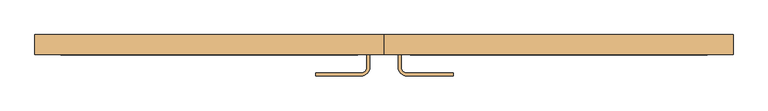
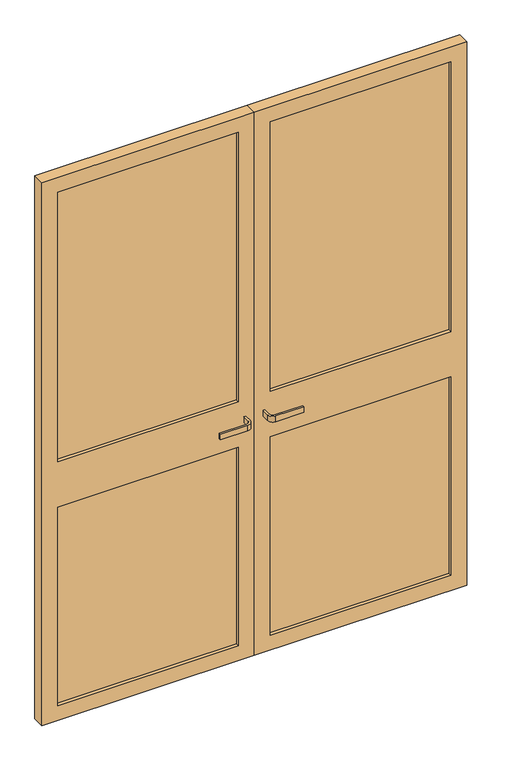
"""IFC4 building model written with IfcOpenShell, lengths in millimetres: door geometry, PORTON_REJA : PORTON_REJA."""

from ifc_helpers import new_model, si_unit, point, frame, frame_2d, origin, place, context, project, spatial, polyline, circle_curve, trimmed, segment, composite_curve, outline, extrude, source, transform, mapped, element, save


def door_d07a92cc(model_context):
    return source(origin(), model_context, "Body", "SweptSolid", [
        extrude(outline(polyline([(2100.0, 0.8168501), (0.0, 0.8168501), (0.0, 776.4858404), (2100.0, 776.4858404), (2100.0, 0.8168501)]), holes=[polyline([(2042.85, 57.9668501), (2042.85, 719.3358404), (1000.0, 719.3358404), (1000.0, 57.9668501), (2042.85, 57.9668501)]), polyline([(825.0, 719.3358404), (57.15, 719.3358404), (57.15, 57.9668501), (825.0, 57.9668501), (825.0, 719.3358404)])]), frame((0.0, -60.0, 0.0), z_axis=(0.0, 1.0, 0.0), x_axis=(0.0, 0.0, 1.0)), (0.0, 0.0, 1.0), 44.45),
        extrude(outline(polyline([(2100.0, -0.7706499), (2100.0, -776.4858404), (0.0, -776.4858404), (0.0, -0.7706499), (2100.0, -0.7706499)]), holes=[polyline([(2042.85, -719.3358404), (2042.85, -57.9206499), (1000.0, -57.9206499), (1000.0, -719.3358404), (2042.85, -719.3358404)]), polyline([(825.0, -57.9206499), (57.15, -57.9206499), (57.15, -719.3358404), (825.0, -719.3358404), (825.0, -57.9206499)])]), frame((0.0, -60.0, 0.0), z_axis=(0.0, 1.0, 0.0), x_axis=(0.0, 0.0, 1.0)), (0.0, 0.0, 1.0), 44.45),
        extrude(outline(polyline([(719.3358404, -28.25), (719.3358404, -47.3), (57.9668501, -47.3), (57.9668501, -28.25), (719.3358404, -28.25)])), frame((0.0, 0.0, 1000.0), z_axis=(0.0, 0.0, 1.0), x_axis=(1.0, 0.0, 0.0)), (0.0, 0.0, 1.0), 1042.85),
        extrude(outline(polyline([(719.3358404, -28.25), (719.3358404, -47.3), (57.9668501, -47.3), (57.9668501, -28.25), (719.3358404, -28.25)])), frame((0.0, 0.0, 57.15), z_axis=(0.0, 0.0, 1.0), x_axis=(1.0, 0.0, 0.0)), (0.0, 0.0, 1.0), 767.85),
        extrude(outline(polyline([(-57.9206499, -28.25), (-57.9206499, -47.3), (-719.3358404, -47.3), (-719.3358404, -28.25), (-57.9206499, -28.25)])), frame((0.0, 0.0, 1000.0), z_axis=(0.0, 0.0, 1.0), x_axis=(1.0, 0.0, 0.0)), (0.0, 0.0, 1.0), 1042.85),
        extrude(outline(polyline([(-57.9206499, -28.25), (-57.9206499, -47.3), (-719.3358404, -47.3), (-719.3358404, -28.25), (-57.9206499, -28.25)])), frame((0.0, 0.0, 57.15), z_axis=(0.0, 0.0, 1.0), x_axis=(1.0, 0.0, 0.0)), (0.0, 0.0, 1.0), 767.85),
        extrude(outline(composite_curve([segment(trimmed(circle_curve(frame_2d((-50.7768999, -88.25)), 19.05), [point((-31.7268999, -88.25))], [point((-50.7768999, -107.3))], False, "CARTESIAN"), True, "CONTINUOUS"), segment(polyline([(-50.7768999, -107.3), (-151.694019, -107.3), (-151.694019, -100.95), (-50.7768999, -100.95)]), True, "CONTINUOUS"), segment(trimmed(circle_curve(frame_2d((-50.7768999, -88.25)), 12.7), [point((-50.7768999, -100.95))], [point((-38.0768999, -88.25))], True, "CARTESIAN"), True, "CONTINUOUS"), segment(polyline([(-38.0768999, -88.25), (-38.0768999, -60.0), (-31.7268999, -60.0), (-31.7268999, -88.25)]), True, "CONTINUOUS")], self_intersect=False)), frame((0.0, 0.0, 914.5324752), z_axis=(0.0, 0.0, 1.0), x_axis=(1.0, 0.0, 0.0)), (0.0, 0.0, 1.0), 21.9479028),
        extrude(outline(composite_curve([segment(polyline([(31.7731001, -88.25), (31.7731001, -60.0), (38.1231001, -60.0), (38.1231001, -88.25)]), True, "CONTINUOUS"), segment(trimmed(circle_curve(frame_2d((50.8231001, -88.25)), 12.7), [point((38.1231001, -88.25))], [point((50.8231001, -100.95))], True, "CARTESIAN"), True, "CONTINUOUS"), segment(polyline([(50.8231001, -100.95), (153.6171495, -100.95), (153.6171495, -107.3), (50.8231001, -107.3)]), True, "CONTINUOUS"), segment(trimmed(circle_curve(frame_2d((50.8231001, -88.25)), 19.05), [point((50.8231001, -107.3))], [point((31.7731001, -88.25))], False, "CARTESIAN"), True, "CONTINUOUS")], self_intersect=False)), frame((0.0, 0.0, 914.5324752), z_axis=(0.0, 0.0, 1.0), x_axis=(1.0, 0.0, 0.0)), (0.0, 0.0, 1.0), 21.9479028),
    ])


if __name__ == "__main__":
    model = new_model("IFC4")
    model_context = context("Model", 3, world=origin())
    ifc_project = project(units=[si_unit("LENGTHUNIT", "METRE", prefix="MILLI")], contexts=[model_context])
    site = spatial("IfcSite", under=ifc_project)
    building = spatial("IfcBuilding", under=site)
    placement = place(None, origin())
    door_shape = door_d07a92cc(model_context)
    element("IfcDoor", 1, ObjectType="PORTON_REJA : PORTON_REJA", at=placement, inside=building, context=model_context, shape_type="MappedRepresentation", body=[
        mapped(door_shape, transform((0.0, 0.0, 0.0), x_axis=(1.0, 0.0, 0.0), y_axis=(0.0, 1.0, 0.0), z_axis=(0.0, 0.0, 1.0))),
    ])
    save(model, "model.ifc")
